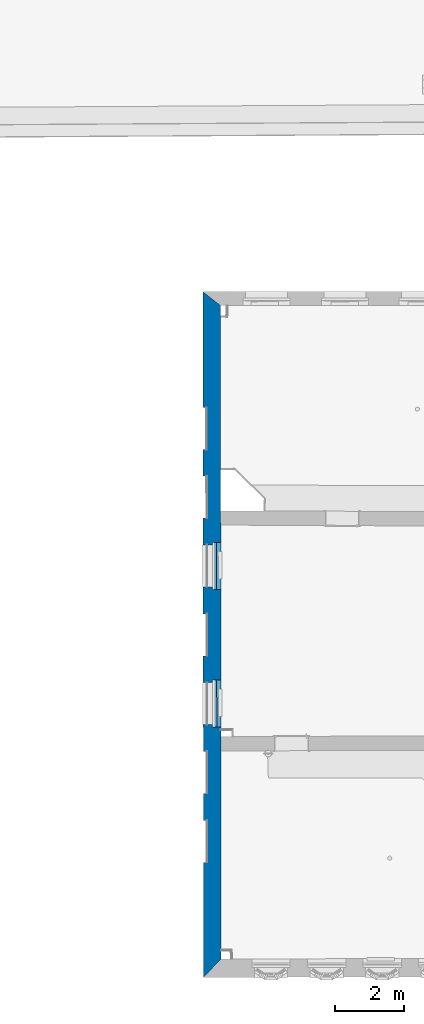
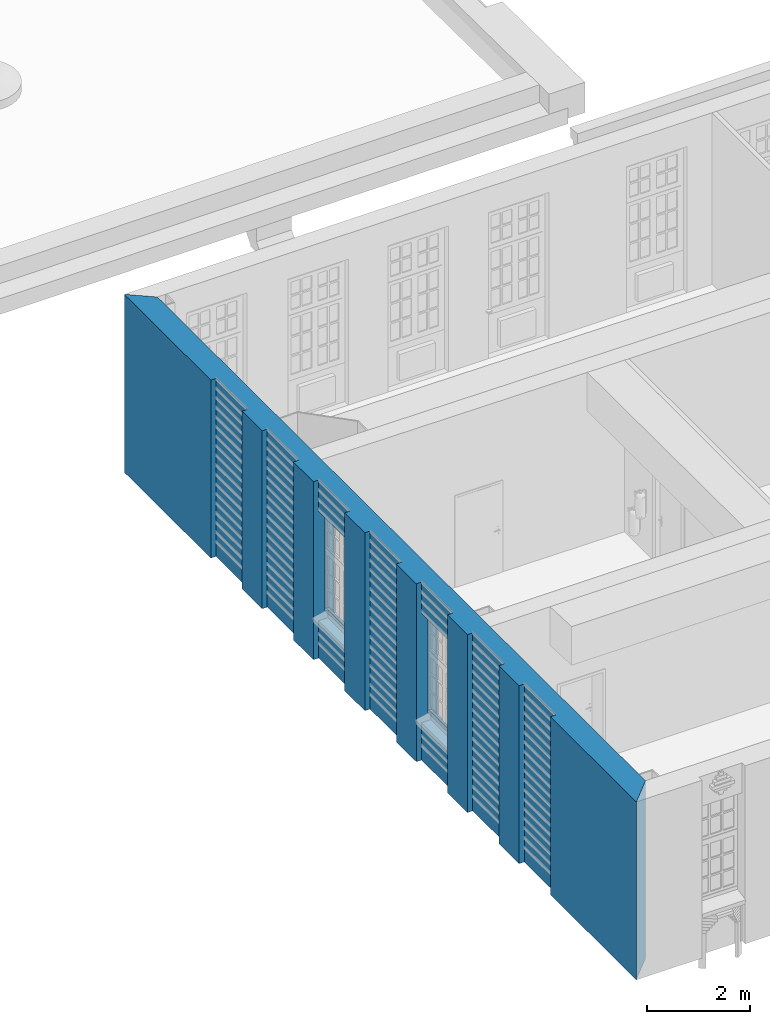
# One storey, part 10 of 90: 1 wall, 9 openings.
"""IFC2X3 building model written with IfcOpenShell, lengths in metres."""

from ifc_helpers import new_model, entity, si_unit, converted_unit, derived_unit, money_unit, direction, frame, origin_with_axes, origin_2d_with_axis, place, context, subcontext, project, spatial, polyline, rectangle, outline, extrude, material, layer, layer_set, layer_usage, type_object, element, save


model = new_model("IFC2X3")

# Units and contexts
model_context = context("Model", 3, precision=1e-05, world=origin_with_axes(), true_north=direction((0.0, 1.0)))
body_context = subcontext(model_context, "Body", "Model", "MODEL_VIEW")
ifc_project = project(units=[si_unit("LENGTHUNIT", "METRE"), si_unit("AREAUNIT", "SQUARE_METRE"), si_unit("VOLUMEUNIT", "CUBIC_METRE"), converted_unit("PLANEANGLEUNIT", "DEGREE", entity("IfcPlaneAngleMeasure", 0.0174532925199), si_unit("PLANEANGLEUNIT", "RADIAN"), dimensions=[0, 0, 0, 0, 0, 0, 0]), money_unit("EUR"), converted_unit("TIMEUNIT", "Year", entity("IfcTimeMeasure", 31556926.0), si_unit("TIMEUNIT", "SECOND"), dimensions=[0, 0, 1, 0, 0, 0, 0]), si_unit("MASSUNIT", "GRAM", prefix="KILO"), si_unit("THERMODYNAMICTEMPERATUREUNIT", "DEGREE_CELSIUS"), si_unit("LUMINOUSINTENSITYUNIT", "LUMEN"), si_unit("ENERGYUNIT", "JOULE", prefix="MEGA"), derived_unit("THERMALCONDUCTANCEUNIT", [(si_unit("POWERUNIT", "WATT"), 1), (si_unit("LENGTHUNIT", "METRE"), -1), (si_unit("THERMODYNAMICTEMPERATUREUNIT", "KELVIN"), -1)]), derived_unit("SPECIFICHEATCAPACITYUNIT", [(si_unit("ENERGYUNIT", "JOULE"), 1), (si_unit("MASSUNIT", "GRAM", prefix="KILO"), -1), (si_unit("THERMODYNAMICTEMPERATUREUNIT", "KELVIN"), -1)]), derived_unit("MASSDENSITYUNIT", [(si_unit("MASSUNIT", "GRAM", prefix="KILO"), 1), (si_unit("VOLUMEUNIT", "CUBIC_METRE"), -1)])], contexts=[model_context])

# Site, building, storey
site_placement = place(None, origin_with_axes())
site = spatial("IfcSite", under=ifc_project, at=site_placement, Name="Gelände", CompositionType="ELEMENT")
building_placement = place(site_placement, origin_with_axes())
building = spatial("IfcBuilding", under=site, at=building_placement, Name="Gebäude", CompositionType="ELEMENT")
storey_placement = place(building_placement, frame((0.0, 0.0, 3.7), z_axis=(0.0, 0.0, 1.0), x_axis=(1.0, 0.0, 0.0)))
storey = spatial("IfcBuildingStorey", under=building, at=storey_placement, Name="1.OBERGESCHOSS", CompositionType="ELEMENT", Elevation=3.7)

# Wall, openings
ifc_material = material(Name="05_ALLGEMEIN - TRAGENDE BAUTEILE")
ifc_layer = layer(ifc_material, 0.51, ventilated="UNKNOWN")
ifc_layer_set = layer_set([ifc_layer], Name="05_ALLGEMEIN - TRAGENDE BAUTEILE 0.51")
ifc_layer_usage = layer_usage(ifc_layer_set, "AXIS2", "NEGATIVE", 0.51)
wall_type = type_object("IfcWallType", Name="05_ALLGEMEIN - TRAGENDE BAUTEILE 510", PredefinedType="ELEMENTEDWALL")
wall_placement = place(storey_placement, frame((-28.0687217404, 26.02827308, -0.1), z_axis=(0.0, 0.0, 1.0), x_axis=(0.000934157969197, -0.999999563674, 0.0)))
wall = element("IfcWallStandardCase", 1, at=wall_placement, inside=storey, type_object=wall_type, material=ifc_layer_usage, Name="Wand-029", ObjectType="ELEMENTEDWALL", context=body_context, shape_type="SweptSolid", body=[
    extrude(outline(polyline([(0.0, 0.0), (19.7681014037, 0.0), (19.2374924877, 0.51), (0.399764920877, 0.51), (0.0, 0.0)])), origin_with_axes(), (0.0, 0.0, 1.0), 4.2),
])
opening_1_placement = place(wall_placement, frame((11.8770500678, 0.0, 1.06324433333), z_axis=(0.0, 0.0, 1.0), x_axis=(1.0, 0.0, 0.0)))
element("IfcOpeningElement", 2, at=opening_1_placement, cuts=wall, Name="Fenster-015", context=body_context, shape_type="SweptSolid", body=[
    extrude(rectangle(XDim=1.35197006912, YDim=1.12, at=origin_2d_with_axis()), frame((0.0, 0.95, -0.913244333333), z_axis=(0.0, 0.0, -1.0), x_axis=(-1.0, 0.0, 0.0)), (0.0, 0.0, -1.0), 0.913244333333),
    extrude(rectangle(XDim=1.21197006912, YDim=2.399557, at=origin_2d_with_axis()), frame((0.0, 0.264569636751, 1.1997785), z_axis=(0.0, -1.0, 0.0), x_axis=(-1.0, 0.0, 0.0)), (0.0, 0.0, 1.0), 0.774569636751),
    extrude(rectangle(XDim=1.35197006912, YDim=2.469557, at=origin_2d_with_axis()), frame((0.0, 0.264569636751, 1.2347785), z_axis=(0.0, 1.0, 0.0), x_axis=(-1.0, 0.0, 0.0)), (0.0, 0.0, 1.0), 0.755430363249),
    extrude(rectangle(XDim=1.21197006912, YDim=0.183168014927, at=origin_2d_with_axis()), frame((0.0, 0.325612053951, -0.0915840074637), z_axis=(0.0, -1.0, 0.0), x_axis=(-1.0, 0.0, 0.0)), (0.0, 0.0, 1.0), 0.571042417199),
])
opening_2_placement = place(wall_placement, frame((7.90417346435, 0.0, 1.06324433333), z_axis=(0.0, 0.0, 1.0), x_axis=(1.0, 0.0, 0.0)))
element("IfcOpeningElement", 3, at=opening_2_placement, cuts=wall, Name="Fenster-015", context=body_context, shape_type="SweptSolid", body=[
    extrude(rectangle(XDim=1.35197006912, YDim=1.12, at=origin_2d_with_axis()), frame((0.0, 0.95, -0.913244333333), z_axis=(0.0, 0.0, -1.0), x_axis=(-1.0, 0.0, 0.0)), (0.0, 0.0, -1.0), 0.913244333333),
    extrude(rectangle(XDim=1.21197006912, YDim=2.399557, at=origin_2d_with_axis()), frame((0.0, 0.264569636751, 1.1997785), z_axis=(0.0, -1.0, 0.0), x_axis=(-1.0, 0.0, 0.0)), (0.0, 0.0, 1.0), 0.774569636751),
    extrude(rectangle(XDim=1.35197006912, YDim=2.469557, at=origin_2d_with_axis()), frame((0.0, 0.264569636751, 1.2347785), z_axis=(0.0, 1.0, 0.0), x_axis=(-1.0, 0.0, 0.0)), (0.0, 0.0, 1.0), 0.755430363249),
    extrude(rectangle(XDim=1.21197006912, YDim=0.183168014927, at=origin_2d_with_axis()), frame((0.0, 0.325612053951, -0.0915840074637), z_axis=(0.0, -1.0, 0.0), x_axis=(-1.0, 0.0, 0.0)), (0.0, 0.0, 1.0), 0.571042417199),
])
opening_3_placement = place(wall_placement, frame((13.8574491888, 0.0, 0.0), z_axis=(0.0, 0.0, 1.0), x_axis=(1.0, 0.0, 0.0)))
element("IfcOpeningElement", 4, at=opening_3_placement, cuts=wall, Name="Fenster-015", ObjectType="Recess", context=body_context, shape_type="SweptSolid", body=[
    extrude(rectangle(XDim=1.212, YDim=4.2, at=origin_2d_with_axis()), frame((0.0, 0.11528824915, 2.1), z_axis=(0.0, -1.0, 0.0), x_axis=(-1.0, 0.0, 0.0)), (0.0, 0.0, 1.0), 0.62528824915),
])
opening_4_placement = place(wall_placement, frame((11.8770500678, 0.0, 0.0), z_axis=(0.0, 0.0, 1.0), x_axis=(1.0, 0.0, 0.0)))
element("IfcOpeningElement", 5, at=opening_4_placement, cuts=wall, Name="Fenster-015", ObjectType="Recess", context=body_context, shape_type="SweptSolid", body=[
    extrude(rectangle(XDim=1.21197006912, YDim=4.2, at=origin_2d_with_axis()), frame((0.0, 0.11528824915, 2.1), z_axis=(0.0, -1.0, 0.0), x_axis=(-1.0, 0.0, 0.0)), (0.0, 0.0, 1.0), 0.62528824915),
])
opening_5_placement = place(wall_placement, frame((15.8455849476, 0.0, 0.0), z_axis=(0.0, 0.0, 1.0), x_axis=(1.0, 0.0, 0.0)))
element("IfcOpeningElement", 6, at=opening_5_placement, cuts=wall, Name="Fenster-015", ObjectType="Recess", context=body_context, shape_type="SweptSolid", body=[
    extrude(rectangle(XDim=1.212, YDim=4.2, at=origin_2d_with_axis()), frame((0.0, 0.11528824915, 2.1), z_axis=(0.0, -1.0, 0.0), x_axis=(-1.0, 0.0, 0.0)), (0.0, 0.0, 1.0), 0.62528824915),
])
opening_6_placement = place(wall_placement, frame((9.89393737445, 0.0, 0.0), z_axis=(0.0, 0.0, 1.0), x_axis=(1.0, 0.0, 0.0)))
element("IfcOpeningElement", 7, at=opening_6_placement, cuts=wall, Name="Fenster-015", ObjectType="Recess", context=body_context, shape_type="SweptSolid", body=[
    extrude(rectangle(XDim=1.212, YDim=4.2, at=origin_2d_with_axis()), frame((0.0, 0.11528824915, 2.1), z_axis=(0.0, -1.0, 0.0), x_axis=(-1.0, 0.0, 0.0)), (0.0, 0.0, 1.0), 0.62528824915),
])
opening_7_placement = place(wall_placement, frame((7.90418842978, 0.0, 0.0), z_axis=(0.0, 0.0, 1.0), x_axis=(1.0, 0.0, 0.0)))
element("IfcOpeningElement", 8, at=opening_7_placement, cuts=wall, Name="Fenster-015", ObjectType="Recess", context=body_context, shape_type="SweptSolid", body=[
    extrude(rectangle(XDim=1.212, YDim=4.2, at=origin_2d_with_axis()), frame((0.0, 0.11528824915, 2.1), z_axis=(0.0, -1.0, 0.0), x_axis=(-1.0, 0.0, 0.0)), (0.0, 0.0, 1.0), 0.62528824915),
])
opening_8_placement = place(wall_placement, frame((5.92275110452, 0.0, 0.0), z_axis=(0.0, 0.0, 1.0), x_axis=(1.0, 0.0, 0.0)))
element("IfcOpeningElement", 9, at=opening_8_placement, cuts=wall, Name="Fenster-015", ObjectType="Recess", context=body_context, shape_type="SweptSolid", body=[
    extrude(rectangle(XDim=1.212, YDim=4.2, at=origin_2d_with_axis()), frame((0.0, 0.11528824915, 2.1), z_axis=(0.0, -1.0, 0.0), x_axis=(-1.0, 0.0, 0.0)), (0.0, 0.0, 1.0), 0.62528824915),
])
opening_9_placement = place(wall_placement, frame((3.94731426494, 0.0, 0.0), z_axis=(0.0, 0.0, 1.0), x_axis=(1.0, 0.0, 0.0)))
element("IfcOpeningElement", 10, at=opening_9_placement, cuts=wall, Name="Fenster-015", ObjectType="Recess", context=body_context, shape_type="SweptSolid", body=[
    extrude(rectangle(XDim=1.212, YDim=4.2, at=origin_2d_with_axis()), frame((0.0, 0.11528824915, 2.1), z_axis=(0.0, -1.0, 0.0), x_axis=(-1.0, 0.0, 0.0)), (0.0, 0.0, 1.0), 0.62528824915),
])

save(model, "model.ifc")
